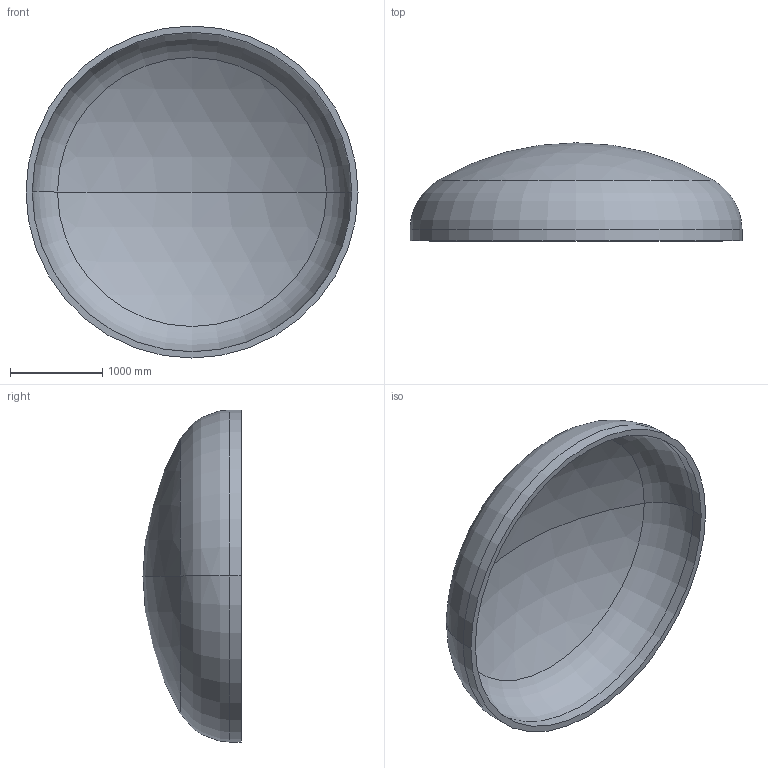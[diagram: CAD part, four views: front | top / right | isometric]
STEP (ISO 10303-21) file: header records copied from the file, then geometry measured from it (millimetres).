
FILE_DESCRIPTION (( 'STEP AP203' ), '1' );
FILE_NAME ('DIN 28013 Korbbogenform_-_Boden DIN 28013 - 3600 x 120 - I - s=68.step', '2016-07-01T20:37:37', ( '' ), ( '' ), 'SwSTEP 2.0', 'SolidWorks 2013', '' );
FILE_SCHEMA (( 'CONFIG_CONTROL_DESIGN' ));
Length unit declared in the file: millimetre
Products named in the file (1): DIN 28013 Korbbogenform_-_Boden DIN 28013 - 3600 x 120 - I - s=68
Bounding box: 3600 x 1062.93 x 3600 mm (x, y, z)
Volume: 1025808299.2 mm3; surface area: 30935041.5 mm2
Topology: 1 solids, 1 shells, 13 faces, 24 edges, 14 vertices
Faces by surface type: torus 4, cylinder 4, sphere 4, plane 1
Entity records: 407 total; most frequent: DIRECTION 72, CARTESIAN_POINT 52, ORIENTED_EDGE 48, AXIS2_PLACEMENT_3D 34, EDGE_CURVE 24, CIRCLE 20, EDGE_LOOP 14, VERTEX_POINT 14
